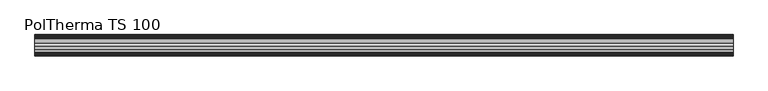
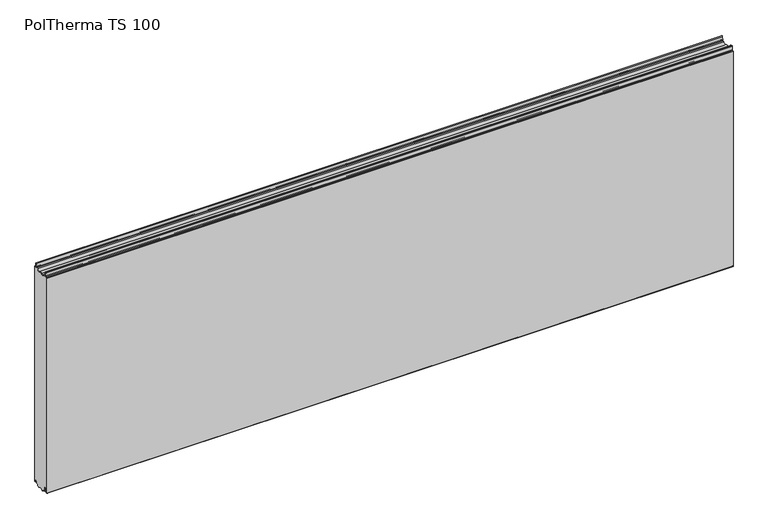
"""IFC4 building model written with IfcOpenShell, lengths in millimetres: plate geometry, Europanels_Poltherma TS_Hz : PolTherma TS 100."""

from ifc_helpers import new_model, si_unit, point, frame, frame_2d, origin, place, context, project, spatial, polyline, circle_curve, trimmed, segment, composite_curve, outline, extrude, source, transform, mapped, element, save


def poltherma_ts_100_9f9b319c(model_context):
    return source(origin(), model_context, "Body", "SweptSolid", [
        extrude(outline(composite_curve([segment(trimmed(circle_curve(frame_2d((-48.0, 1096.5011047)), 2.0), [point((-50.0, 1096.5011047))], [point((-48.0, 1098.5011047))], False, "CARTESIAN"), True, "CONTINUOUS"), segment(polyline([(-48.0, 1098.5011047), (-44.244573, 1098.5011047)]), True, "CONTINUOUS"), segment(trimmed(circle_curve(frame_2d((-44.244573, 1100.5011047)), 2.0), [point((-44.244573, 1098.5011047))], [point((-42.2483736, 1100.3778643))], True, "CARTESIAN"), True, "CONTINUOUS"), segment(polyline([(-42.2483736, 1100.3778643), (-41.1836192, 1117.624345)]), True, "CONTINUOUS"), segment(trimmed(circle_curve(frame_2d((-39.1874198, 1117.5011047)), 2.0), [point((-41.1836192, 1117.624345))], [point((-39.1874198, 1119.5011047))], False, "CARTESIAN"), True, "CONTINUOUS"), segment(polyline([(-39.1874198, 1119.5011047), (-36.4480373, 1119.5011047)]), True, "CONTINUOUS"), segment(trimmed(circle_curve(frame_2d((-36.4480373, 1117.5011047)), 2.0), [point((-36.4480373, 1119.5011047))], [point((-34.4498501, 1117.5862394))], False, "CARTESIAN"), True, "CONTINUOUS"), segment(polyline([(-34.4498501, 1117.5862394), (-33.7101357, 1100.2244834)]), True, "CONTINUOUS"), segment(trimmed(circle_curve(frame_2d((-31.9117672, 1100.3011047)), 1.8), [point((-33.7101357, 1100.2244834))], [point((-31.9117672, 1098.5011047))], True, "CARTESIAN"), True, "CONTINUOUS"), segment(polyline([(-31.9117672, 1098.5011047), (-22.9234285, 1098.5011047)]), True, "CONTINUOUS"), segment(trimmed(circle_curve(frame_2d((-12.3, 1101.354658)), 11.0), [point((-22.9234285, 1098.5011047))], [point((-4.05, 1094.0788419))], True, "CARTESIAN"), True, "CONTINUOUS"), segment(trimmed(circle_curve(frame_2d((2.7, 1088.1259015)), 9.0), [point((-4.05, 1094.0788419))], [point((9.45, 1094.0788419))], False, "CARTESIAN"), True, "CONTINUOUS"), segment(trimmed(circle_curve(frame_2d((17.7, 1101.354658)), 11.0), [point((9.45, 1094.0788419))], [point((28.3234285, 1098.5011047))], True, "CARTESIAN"), True, "CONTINUOUS"), segment(polyline([(28.3234285, 1098.5011047), (36.113894, 1098.5011047)]), True, "CONTINUOUS"), segment(trimmed(circle_curve(frame_2d((36.113894, 1100.5011047)), 2.0), [point((36.113894, 1098.5011047))], [point((38.1120505, 1100.4152514))], True, "CARTESIAN"), True, "CONTINUOUS"), segment(polyline([(38.1120505, 1100.4152514), (38.8418822, 1117.4014159)]), True, "CONTINUOUS"), segment(trimmed(circle_curve(frame_2d((41.019533, 1117.3078504)), 2.1796599), [point((38.8418822, 1117.4014159))], [point((43.1949638, 1117.4435621))], False, "CARTESIAN"), True, "CONTINUOUS"), segment(polyline([(43.1949638, 1117.4435621), (44.2596673, 1100.3765791)]), True, "CONTINUOUS"), segment(trimmed(circle_curve(frame_2d((46.2557869, 1100.5011047)), 2.0), [point((44.2596673, 1100.3765791))], [point((46.2557869, 1098.5011047))], True, "CARTESIAN"), True, "CONTINUOUS"), segment(polyline([(46.2557869, 1098.5011047), (48.0, 1098.5011047)]), True, "CONTINUOUS"), segment(trimmed(circle_curve(frame_2d((48.0, 1096.5011047)), 2.0), [point((48.0, 1098.5011047))], [point((50.0, 1096.5011047))], False, "CARTESIAN"), True, "CONTINUOUS"), segment(polyline([(50.0, 1096.5011047), (50.0, 3.8418901)]), True, "CONTINUOUS"), segment(trimmed(circle_curve(frame_2d((47.632528, 3.8418901)), 2.367472), [point((50.0, 3.8418901))], [point((45.2685131, 3.7139946))], False, "CARTESIAN"), True, "CONTINUOUS"), segment(polyline([(45.2685131, 3.7139946), (44.3287441, 21.084649)]), True, "CONTINUOUS"), segment(trimmed(circle_curve(frame_2d((41.0497127, 20.9072503)), 3.2838266), [point((44.3287441, 21.084649))], [point((37.7713293, 21.0962469))], True, "CARTESIAN"), True, "CONTINUOUS"), segment(polyline([(37.7713293, 21.0962469), (36.7366349, 3.1481762)]), True, "CONTINUOUS"), segment(trimmed(circle_curve(frame_2d((34.9895357, 3.2488953)), 1.75), [point((36.7366349, 3.1481762))], [point((34.9895357, 1.4988953))], False, "CARTESIAN"), True, "CONTINUOUS"), segment(polyline([(34.9895357, 1.4988953), (27.5267156, 1.4988953)]), True, "CONTINUOUS"), segment(trimmed(circle_curve(frame_2d((17.7, 3.3524487)), 10.0), [point((27.5267156, 1.4988953))], [point((10.2, -3.2619295))], False, "CARTESIAN"), True, "CONTINUOUS"), segment(trimmed(circle_curve(frame_2d((2.7, -9.8763078)), 10.0), [point((10.2, -3.2619295))], [point((-4.8, -3.2619295))], True, "CARTESIAN"), True, "CONTINUOUS"), segment(trimmed(circle_curve(frame_2d((-12.3, 3.3524487)), 10.0), [point((-4.8, -3.2619295))], [point((-22.1267156, 1.4988953))], False, "CARTESIAN"), True, "CONTINUOUS"), segment(polyline([(-22.1267156, 1.4988953), (-30.5507777, 1.4988953)]), True, "CONTINUOUS"), segment(trimmed(circle_curve(frame_2d((-30.5507777, 3.2988953)), 1.8), [point((-30.5507777, 1.4988953))], [point((-32.3477941, 3.1952985))], False, "CARTESIAN"), True, "CONTINUOUS"), segment(polyline([(-32.3477941, 3.1952985), (-33.3842966, 21.1747334)]), True, "CONTINUOUS"), segment(trimmed(circle_curve(frame_2d((-36.3793238, 21.0020721)), 3.0), [point((-33.3842966, 21.1747334))], [point((-36.3793238, 24.0020721))], True, "CARTESIAN"), True, "CONTINUOUS"), segment(polyline([(-36.3793238, 24.0020721), (-39.3209015, 24.0020721)]), True, "CONTINUOUS"), segment(trimmed(circle_curve(frame_2d((-39.3209015, 21.0020721)), 3.0), [point((-39.3209015, 24.0020721))], [point((-42.3165207, 21.1641379))], True, "CARTESIAN"), True, "CONTINUOUS"), segment(polyline([(-42.3165207, 21.1641379), (-43.2780726, 3.3908514)]), True, "CONTINUOUS"), segment(trimmed(circle_curve(frame_2d((-45.2751521, 3.4988953)), 2.0), [point((-43.2780726, 3.3908514))], [point((-45.2751521, 1.4988953))], False, "CARTESIAN"), True, "CONTINUOUS"), segment(polyline([(-45.2751521, 1.4988953), (-48.0, 1.4988953)]), True, "CONTINUOUS"), segment(trimmed(circle_curve(frame_2d((-48.0, 3.4988953)), 2.0), [point((-48.0, 1.4988953))], [point((-50.0, 3.4988953))], False, "CARTESIAN"), True, "CONTINUOUS"), segment(polyline([(-50.0, 3.4988953), (-50.0, 1096.5011047)]), True, "CONTINUOUS")], self_intersect=False)), frame((-1650.0, 0.0, 0.0), z_axis=(1.0, 0.0, 0.0), x_axis=(0.0, 1.0, 0.0)), (0.0, 0.0, 1.0), 3300.0),
    ])


if __name__ == "__main__":
    model = new_model("IFC4")
    model_context = context("Model", 3, world=origin())
    ifc_project = project(units=[si_unit("LENGTHUNIT", "METRE", prefix="MILLI")], contexts=[model_context])
    site = spatial("IfcSite", under=ifc_project)
    building = spatial("IfcBuilding", under=site)
    placement = place(None, origin())
    poltherma_ts_100_shape = poltherma_ts_100_9f9b319c(model_context)
    element("IfcPlate", 1, ObjectType="Europanels_Poltherma TS_Hz : PolTherma TS 100", at=placement, inside=building, context=model_context, shape_type="MappedRepresentation", body=[
        mapped(poltherma_ts_100_shape, transform((0.0, 0.0, 0.0), x_axis=(1.0, 0.0, 0.0), y_axis=(0.0, 1.0, 0.0), z_axis=(0.0, 0.0, 1.0))),
    ])
    save(model, "model.ifc")
